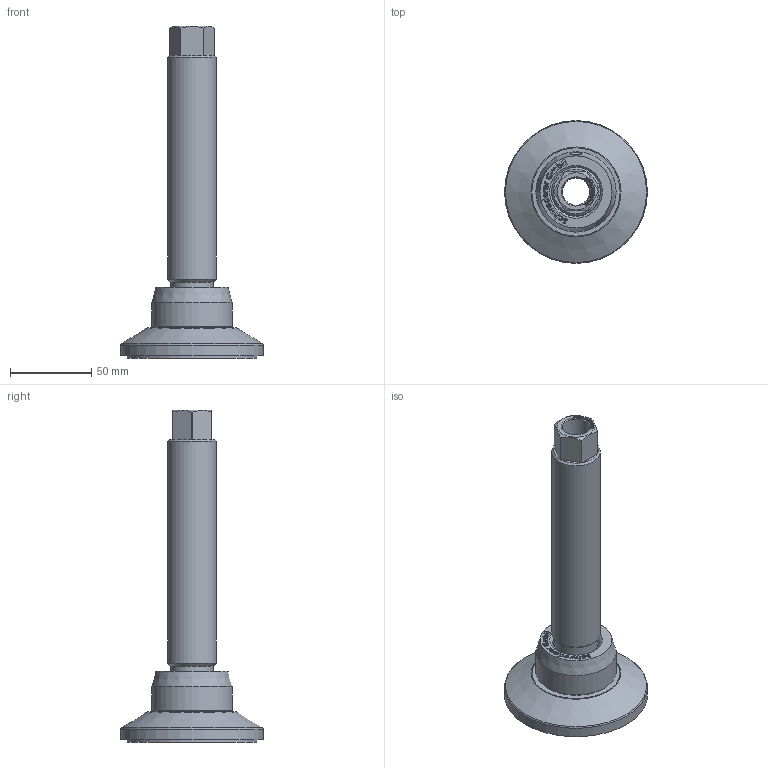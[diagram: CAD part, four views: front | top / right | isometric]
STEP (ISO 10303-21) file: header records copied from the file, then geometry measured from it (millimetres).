
FILE_DESCRIPTION(/* description */ ('JCM 80C - M30 - S6'),/* implementation_level */ '2;1');
FILE_NAME(/* name */ 'P:\CAD ab 2015\STP - Internetseite\JCMHD\JCMHD 80C - S - HSD180.stp',/* time_stamp */ '2017-01-24T09:37:11+01:00',/* author */ ('T. Rey'),/* organization */ ('Schwaderer GmbH Robert-Bosch-Straße 10 71563 Affalterbach'),/* preprocessor_version */ 'ST-DEVELOPER v16.1',/* originating_system */ 'Autodesk Inventor LT ',/* authorisation */ '');
FILE_SCHEMA (('CONFIG_CONTROL_DESIGN'));
Length unit declared in the file: millimetre
Products named in the file (1): JCMHD 80C - S6 - HSD180
Bounding box: 88 x 88 x 204.63 mm (x, y, z)
Volume: 193590.8 mm3; surface area: 63640.6 mm2
Topology: 4 solids, 4 shells, 479 faces, 1262 edges, 831 vertices
Faces by surface type: plane 243, bspline 192, cylinder 23, cone 17, torus 3, sphere 1
Full cylindrical faces by diameter (mm): 5 x1, 17 x1, 18.5 x1, 25 x1, 26 x1, 26.5 x1, 27.5 x1, 28.5 x2, 30 x2, 31 x1, 49.5 x1, 80 x2, 88 x1
Entity records: 15604 total; most frequent: CARTESIAN_POINT 5178, ORIENTED_EDGE 2440, DIRECTION 1468, EDGE_CURVE 1220, VERTEX_POINT 824, LINE 750, VECTOR 750, EDGE_LOOP 564
